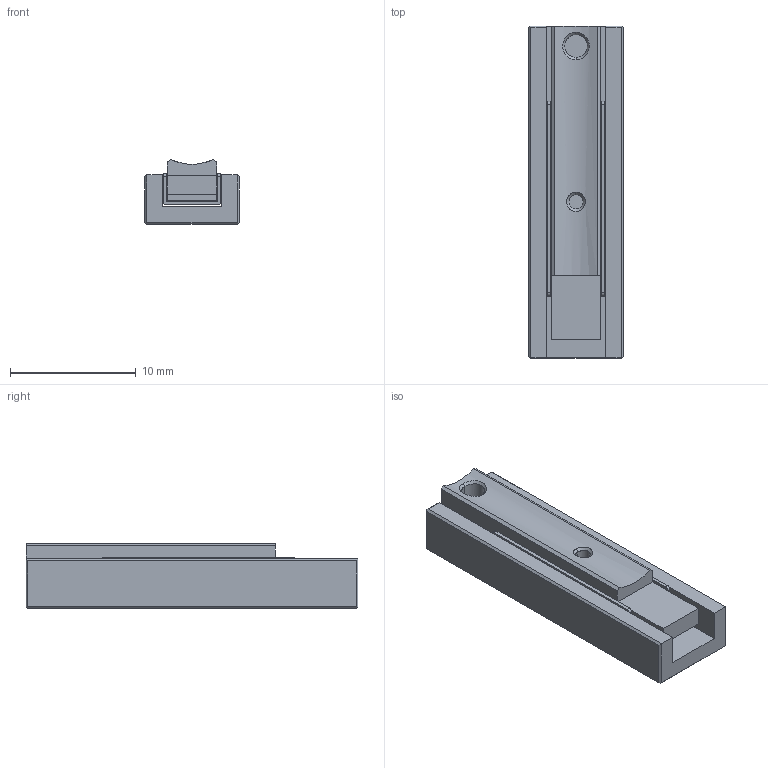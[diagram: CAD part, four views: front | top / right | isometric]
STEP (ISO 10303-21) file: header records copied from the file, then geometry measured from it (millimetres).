
FILE_DESCRIPTION(/* description */ (''),/* implementation_level */ '2;1');
FILE_NAME(/* name */ 'CR18-01 NDN 4-26.22.stp',/* time_stamp */ '2025-02-28T14:30:00+08:00',/* author */ (''),/* organization */ (''),/* preprocessor_version */ 'ST-DEVELOPER v16.7',/* originating_system */ 'SIEMENS PLM Software NX 12.0',/* authorisation */ '');
FILE_SCHEMA (('AUTOMOTIVE_DESIGN { 1 0 10303 214 3 1 1 1 }'));
Length unit declared in the file: millimetre
Products named in the file (1): CR18-01 NDN 4-26.22
Bounding box: 7.5 x 26.43 x 5.17 mm (x, y, z)
Volume: 770.5 mm3; surface area: 1447.4 mm2
Topology: 3 solids, 3 shells, 427 faces, 1196 edges, 792 vertices
Faces by surface type: plane 396, cylinder 17, cone 10, bspline 4
Entity records: 14158 total; most frequent: CARTESIAN_POINT 2944, ORIENTED_EDGE 2392, DIRECTION 2072, EDGE_CURVE 1196, LINE 1144, VECTOR 1144, VERTEX_POINT 792, AXIS2_PLACEMENT_3D 464
